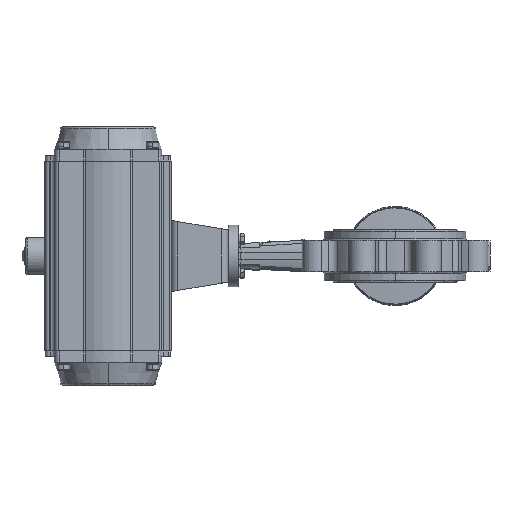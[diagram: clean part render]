
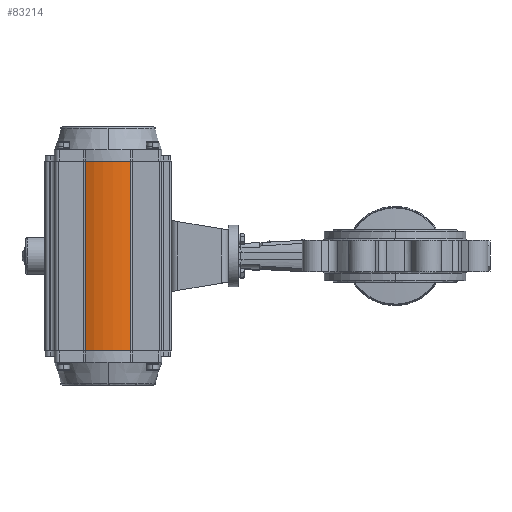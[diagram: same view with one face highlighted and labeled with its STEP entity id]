
A CAD part, left-side view. The second image highlights one B-rep face of the part: STEP entity #83214.
In plain terms, the highlighted cylindrical face has radius 57.5 mm (diameter 115 mm), a partial arc.
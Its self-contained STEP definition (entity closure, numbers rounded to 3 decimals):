
#649 = CARTESIAN_POINT ( 'NONE',  ( 0., 302.5, -100. ) ) ;
#3985 = CARTESIAN_POINT ( 'NONE',  ( -52.44, 326.086, -100. ) ) ;
#7550 = CYLINDRICAL_SURFACE ( 'NONE', #19569, 57.5 ) ;
#10802 = CARTESIAN_POINT ( 'NONE',  ( 0., 302.5, 100. ) ) ;
#11856 = CARTESIAN_POINT ( 'NONE',  ( -52.44, 278.914, -100. ) ) ;
#16887 = DIRECTION ( 'NONE',  ( 0., 0., 1. ) ) ;
#18035 = ORIENTED_EDGE ( 'NONE', *, *, #64525, .F. ) ;
#18196 = EDGE_CURVE ( 'NONE', #60434, #75811, #28029, .T. ) ;
#19569 = AXIS2_PLACEMENT_3D ( 'NONE', #49714, #16887, #62118 ) ;
#28029 = LINE ( 'NONE', #54108, #77098 ) ;
#29803 = VERTEX_POINT ( 'NONE', #3985 ) ;
#32597 = DIRECTION ( 'NONE',  ( 1., 0., 0. ) ) ;
#32922 = EDGE_CURVE ( 'NONE', #40470, #29803, #35244, .T. ) ;
#34807 = CARTESIAN_POINT ( 'NONE',  ( -52.44, 326.086, 100. ) ) ;
#35244 = LINE ( 'NONE', #47608, #81965 ) ;
#36577 = ORIENTED_EDGE ( 'NONE', *, *, #64359, .T. ) ;
#39641 = AXIS2_PLACEMENT_3D ( 'NONE', #649, #59023, #32597 ) ;
#40367 = CARTESIAN_POINT ( 'NONE',  ( -52.44, 278.914, 100. ) ) ;
#40470 = VERTEX_POINT ( 'NONE', #34807 ) ;
#40747 = CIRCLE ( 'NONE', #76199, 57.5 ) ;
#41704 = DIRECTION ( 'NONE',  ( 0., 0., 1. ) ) ;
#42022 = EDGE_LOOP ( 'NONE', ( #18035, #54010, #36577, #79339 ) ) ;
#47608 = CARTESIAN_POINT ( 'NONE',  ( -52.44, 326.086, -100. ) ) ;
#49213 = CIRCLE ( 'NONE', #39641, 57.5 ) ;
#49714 = CARTESIAN_POINT ( 'NONE',  ( 0., 302.5, -100. ) ) ;
#53606 = FACE_OUTER_BOUND ( 'NONE', #42022, .T. ) ;
#54010 = ORIENTED_EDGE ( 'NONE', *, *, #32922, .T. ) ;
#54108 = CARTESIAN_POINT ( 'NONE',  ( -52.44, 278.914, -360.72 ) ) ;
#57260 = DIRECTION ( 'NONE',  ( 0., 0., 1. ) ) ;
#59023 = DIRECTION ( 'NONE',  ( 0., 0., 1. ) ) ;
#60434 = VERTEX_POINT ( 'NONE', #11856 ) ;
#62118 = DIRECTION ( 'NONE',  ( 1., 0., 0. ) ) ;
#64359 = EDGE_CURVE ( 'NONE', #29803, #60434, #49213, .T. ) ;
#64525 = EDGE_CURVE ( 'NONE', #40470, #75811, #40747, .T. ) ;
#68088 = DIRECTION ( 'NONE',  ( 0., 0., -1. ) ) ;
#75811 = VERTEX_POINT ( 'NONE', #40367 ) ;
#76199 = AXIS2_PLACEMENT_3D ( 'NONE', #10802, #57260, #82885 ) ;
#77098 = VECTOR ( 'NONE', #41704, 1000. ) ;
#79339 = ORIENTED_EDGE ( 'NONE', *, *, #18196, .T. ) ;
#81965 = VECTOR ( 'NONE', #68088, 1000. ) ;
#82885 = DIRECTION ( 'NONE',  ( 1., 0., 0. ) ) ;
#83214 = ADVANCED_FACE ( 'NONE', ( #53606 ), #7550, .T. ) ;
